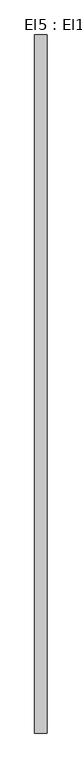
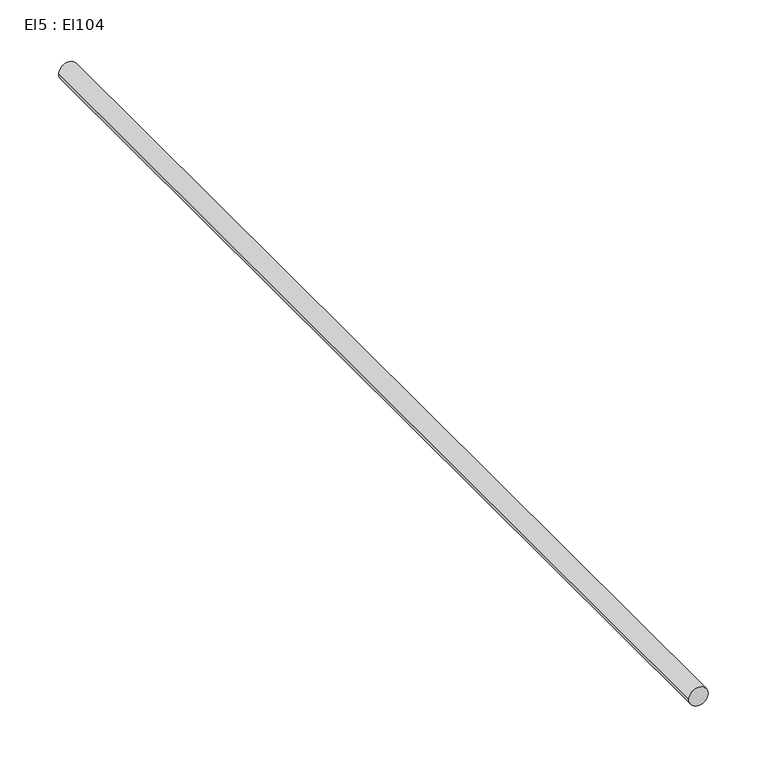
"""IFC4 building model written with IfcOpenShell, lengths in millimetres: cable carrier segment geometry, El5 : El104."""

from ifc_helpers import new_model, si_unit, point, frame, frame_2d, origin, place, context, project, spatial, circle_curve, trimmed, segment, composite_curve, outline, extrude, source, transform, mapped, element, save


def el5_el104_b8869724(model_context):
    return source(origin(), model_context, "Body", "SweptSolid", [
        extrude(outline(composite_curve([segment(trimmed(circle_curve(frame_2d((1800.0, 27744.4746511)), 9.5), [point((1800.0, 27734.9746511))], [point((1800.0, 27753.9746511))], False, "CARTESIAN"), True, "CONTINUOUS"), segment(trimmed(circle_curve(frame_2d((1800.0, 27744.4746511)), 9.5), [point((1800.0, 27753.9746511))], [point((1800.0, 27734.9746511))], False, "CARTESIAN"), True, "CONTINUOUS")], self_intersect=False)), frame((0.0, 9355.1841745, 0.0), z_axis=(0.0, 1.0, 0.0), x_axis=(0.0, 0.0, 1.0)), (0.0, 0.0, 1.0), 1072.46),
    ])


if __name__ == "__main__":
    model = new_model("IFC4")
    model_context = context("Model", 3, world=origin())
    ifc_project = project(units=[si_unit("LENGTHUNIT", "METRE", prefix="MILLI")], contexts=[model_context])
    site = spatial("IfcSite", under=ifc_project)
    building = spatial("IfcBuilding", under=site)
    placement = place(None, origin())
    el5_el104_shape = el5_el104_b8869724(model_context)
    element("IfcCableCarrierSegment", 1, ObjectType="El5 : El104", at=placement, inside=building, context=model_context, shape_type="MappedRepresentation", body=[
        mapped(el5_el104_shape, transform((0.0, 0.0, 0.0), x_axis=(1.0, 0.0, 0.0), y_axis=(0.0, 1.0, 0.0), z_axis=(0.0, 0.0, 1.0))),
    ])
    save(model, "model.ifc")
